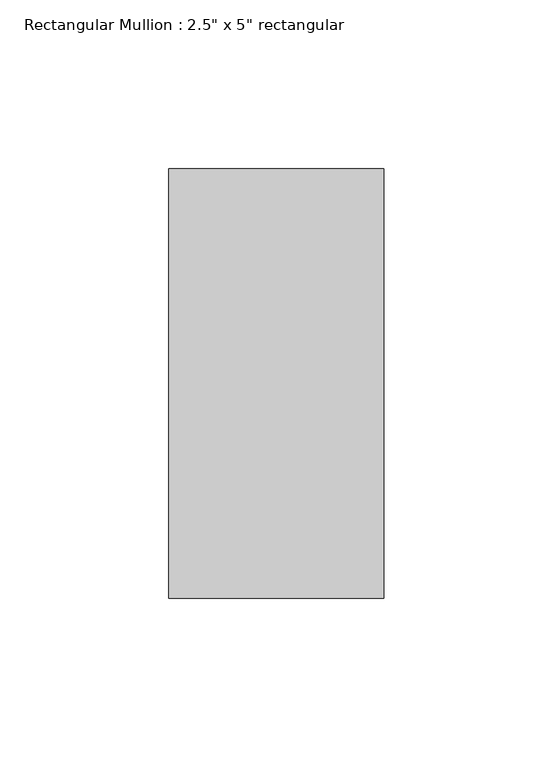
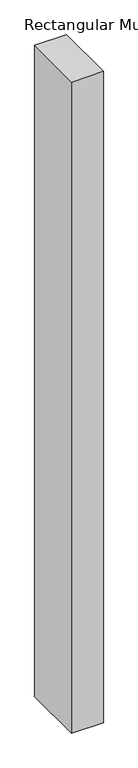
"""IFC4 building model written with IfcOpenShell, lengths in millimetres: member geometry."""

from ifc_helpers import new_model, si_unit, frame, origin, place, context, project, spatial, polyline, outline, extrude, source, transform, mapped, element, save


def member_824a4a8d(model_context):
    return source(origin(), model_context, "Body", "SweptSolid", [
        extrude(outline(polyline([(31.75, 63.5), (31.75, -63.5), (-31.75, -63.5), (-31.75, 63.5), (31.75, 63.5)])), frame((0.0, 0.0, -1371.6), z_axis=(0.0, 0.0, 1.0), x_axis=(1.0, 0.0, 0.0)), (0.0, 0.0, 1.0), 1371.6),
    ])


if __name__ == "__main__":
    model = new_model("IFC4")
    model_context = context("Model", 3, world=origin())
    ifc_project = project(units=[si_unit("LENGTHUNIT", "METRE", prefix="MILLI")], contexts=[model_context])
    site = spatial("IfcSite", under=ifc_project)
    building = spatial("IfcBuilding", under=site)
    placement = place(None, origin())
    member_shape = member_824a4a8d(model_context)
    element("IfcMember", 1, ObjectType="Rectangular Mullion : 2.5\" x 5\" rectangular", at=placement, inside=building, context=model_context, shape_type="MappedRepresentation", body=[
        mapped(member_shape, transform((0.0, 0.0, 0.0), x_axis=(1.0, 0.0, 0.0), y_axis=(0.0, 1.0, 0.0), z_axis=(0.0, 0.0, 1.0))),
    ])
    save(model, "model.ifc")
